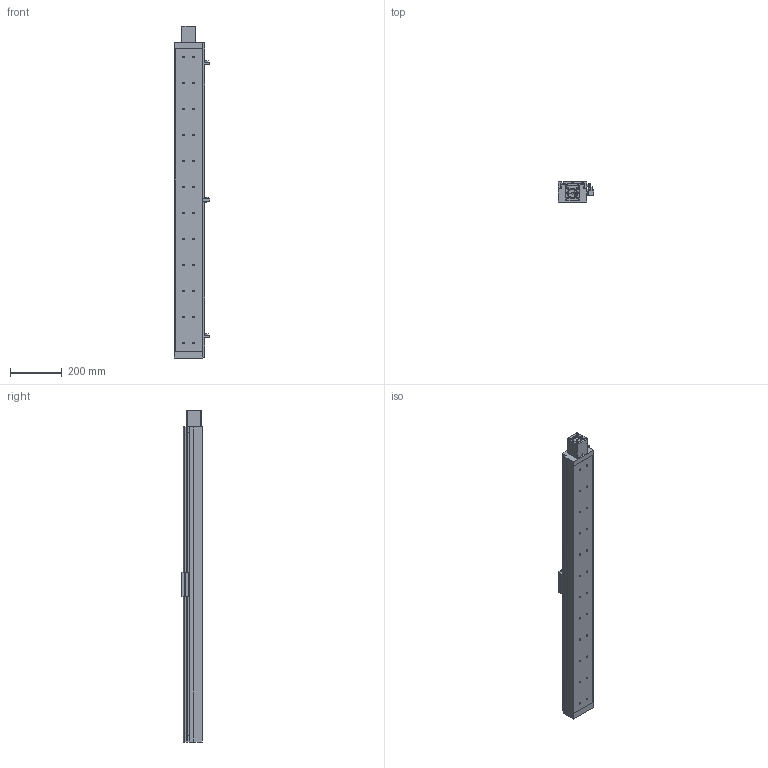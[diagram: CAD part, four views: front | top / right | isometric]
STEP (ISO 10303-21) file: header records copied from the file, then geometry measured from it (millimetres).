
FILE_DESCRIPTION((''),'2;1');
FILE_NAME('E:\libraries\UIA actuator library 2009\standard actuator\UIA110R12(15)DC\UIA110R12(15)DC-ball screw dia.20\UIA110R12(15)DC-_ _ _-R20_ _-M23 step file 20Apr16\UIA110R12(15)DC-1050-R20_ _-M23-P13-C10-S.stp','2016-04-21T16:33:23',('h029'),(''),'Autodesk Inventor 11','Autodesk Inventor 11','');
FILE_SCHEMA(('AUTOMOTIVE_DESIGN { 1 0 10303 214 1 1 1 1 }'));
Length unit declared in the file: millimetre
Products named in the file (10): UIA110R12(15)DC-1050, ball screw dia.20; body, UIA110R12(15)DC-1050,ball screw dia.20; Carriage, UIA110R12(15)DC; Sen Switch, UIA110R12(15)DC; sensor rail, UIA110R12(15)DC-1050; SOH-32C; SOH-32C-3; SOH-32C-1; SOH-32C-2; M23 motor mount
Assembly tree (9 placements, depth 3):
  UIA110R12(15)DC-1050, ball screw dia.20
    body, UIA110R12(15)DC-1050,ball screw dia.20
    Carriage, UIA110R12(15)DC
    Sen Switch, UIA110R12(15)DC
    sensor rail, UIA110R12(15)DC-1050
    SOH-32C
      SOH-32C-3
      SOH-32C-1
      SOH-32C-2
    M23 motor mount
Bounding box: 136.5 x 81 x 1277 mm (x, y, z)
Volume: 9121585.8 mm3; surface area: 694125.1 mm2
Topology: 8 solids, 8 shells, 677 faces, 1776 edges, 1165 vertices
Faces by surface type: plane 427, cylinder 148, bspline 83, cone 19
Full cylindrical faces by diameter (mm): 2.459 x4, 3.242 x4, 4 x6, 4.5 x4, 5.5 x3, 6.35 x1, 6.5 x24, 7.5 x4, 9.5 x6, 10 x2, 10.5 x24, 12 x1, 25 x1, 32 x3, 37 x1, 38.1 x1, 42 x1, 42.01 x1, 43.5 x1
Entity records: 21220 total; most frequent: CARTESIAN_POINT 5283, DIRECTION 3223, ORIENTED_EDGE 3034, EDGE_CURVE 1517, AXIS2_PLACEMENT_3D 1110, VERTEX_POINT 1088, VECTOR 1003, LINE 1003
